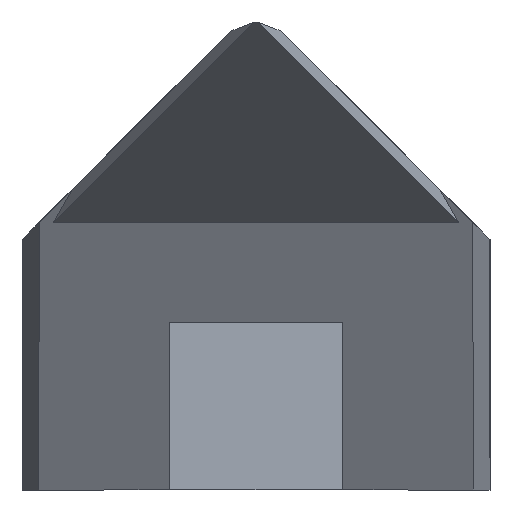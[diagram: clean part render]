
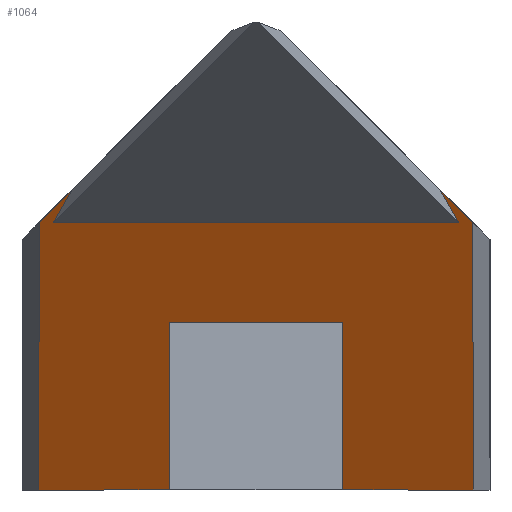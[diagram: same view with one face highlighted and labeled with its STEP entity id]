
A CAD part, front view. The second image highlights one B-rep face of the part: STEP entity #1064.
In plain terms, the highlighted planar face has unit normal (0, -0.848, -0.53).
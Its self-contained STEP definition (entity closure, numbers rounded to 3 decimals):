
#19 = PLANE ( 'NONE',  #473 ) ;
#27 = DIRECTION ( 'NONE',  ( 0.647, 0.404, -0.646 ) ) ;
#37 = CARTESIAN_POINT ( 'NONE',  ( 7., -12., 0. ) ) ;
#46 = VECTOR ( 'NONE', #207, 1000. ) ;
#69 = LINE ( 'NONE', #900, #46 ) ;
#81 = CARTESIAN_POINT ( 'NONE',  ( -6.485, -17., 8. ) ) ;
#115 = EDGE_CURVE ( 'NONE', #389, #238, #454, .T. ) ;
#127 = EDGE_CURVE ( 'NONE', #884, #886, #1416, .T. ) ;
#143 = VERTEX_POINT ( 'NONE', #81 ) ;
#161 = EDGE_CURVE ( 'NONE', #742, #1061, #747, .T. ) ;
#165 = VECTOR ( 'NONE', #1431, 1000. ) ;
#169 = VECTOR ( 'NONE', #793, 1000. ) ;
#182 = VERTEX_POINT ( 'NONE', #380 ) ;
#203 = VECTOR ( 'NONE', #27, 1000. ) ;
#207 = DIRECTION ( 'NONE',  ( 1., 0., 0. ) ) ;
#214 = EDGE_CURVE ( 'NONE', #516, #182, #362, .T. ) ;
#218 = LINE ( 'NONE', #702, #426 ) ;
#233 = CARTESIAN_POINT ( 'NONE',  ( 7., -17., 8. ) ) ;
#238 = VERTEX_POINT ( 'NONE', #1484 ) ;
#244 = CARTESIAN_POINT ( 'NONE',  ( 5.511, -17.607, 8.971 ) ) ;
#245 = ORIENTED_EDGE ( 'NONE', *, *, #1261, .T. ) ;
#257 = CARTESIAN_POINT ( 'NONE',  ( 9.936, -12.751, 1.202 ) ) ;
#266 = ORIENTED_EDGE ( 'NONE', *, *, #127, .T. ) ;
#289 = LINE ( 'NONE', #430, #1320 ) ;
#309 = CARTESIAN_POINT ( 'NONE',  ( -3.126, -19.095, 11.352 ) ) ;
#321 = ORIENTED_EDGE ( 'NONE', *, *, #115, .T. ) ;
#342 = CARTESIAN_POINT ( 'NONE',  ( -2.6, -12., 0. ) ) ;
#360 = EDGE_CURVE ( 'NONE', #143, #1418, #289, .T. ) ;
#362 = LINE ( 'NONE', #257, #1224 ) ;
#380 = CARTESIAN_POINT ( 'NONE',  ( 6.065, -17., 8. ) ) ;
#388 = EDGE_CURVE ( 'NONE', #886, #389, #69, .T. ) ;
#389 = VERTEX_POINT ( 'NONE', #572 ) ;
#390 = DIRECTION ( 'NONE',  ( 0., 0.848, 0.53 ) ) ;
#395 = EDGE_CURVE ( 'NONE', #884, #1418, #410, .T. ) ;
#410 = LINE ( 'NONE', #795, #1501 ) ;
#426 = VECTOR ( 'NONE', #939, 1000. ) ;
#430 = CARTESIAN_POINT ( 'NONE',  ( -6.5, -12., -0.001 ) ) ;
#449 = CARTESIAN_POINT ( 'NONE',  ( -2.6, -12., 0. ) ) ;
#451 = VECTOR ( 'NONE', #589, 1000. ) ;
#454 = LINE ( 'NONE', #937, #1071 ) ;
#473 = AXIS2_PLACEMENT_3D ( 'NONE', #37, #390, #517 ) ;
#483 = CARTESIAN_POINT ( 'NONE',  ( -6.5, -12., 0. ) ) ;
#507 = EDGE_CURVE ( 'NONE', #764, #722, #727, .T. ) ;
#516 = VERTEX_POINT ( 'NONE', #244 ) ;
#517 = DIRECTION ( 'NONE',  ( 0., -0.53, 0.848 ) ) ;
#546 = CARTESIAN_POINT ( 'NONE',  ( -6.065, -17., 8. ) ) ;
#556 = LINE ( 'NONE', #309, #169 ) ;
#566 = DIRECTION ( 'NONE',  ( -0.002, 0.53, -0.848 ) ) ;
#572 = CARTESIAN_POINT ( 'NONE',  ( 2.6, -15.125, 5. ) ) ;
#581 = DIRECTION ( 'NONE',  ( 0., 0.53, -0.848 ) ) ;
#589 = DIRECTION ( 'NONE',  ( -1., 0., 0. ) ) ;
#600 = VECTOR ( 'NONE', #1294, 1000. ) ;
#618 = CARTESIAN_POINT ( 'NONE',  ( 6.485, -16.687, 7.499 ) ) ;
#648 = CARTESIAN_POINT ( 'NONE',  ( 6.5, -12., 0. ) ) ;
#690 = LINE ( 'NONE', #233, #451 ) ;
#702 = CARTESIAN_POINT ( 'NONE',  ( 7., -12., 0. ) ) ;
#722 = VERTEX_POINT ( 'NONE', #1360 ) ;
#727 = LINE ( 'NONE', #1289, #600 ) ;
#740 = CARTESIAN_POINT ( 'NONE',  ( 4.801, -18.05, 9.68 ) ) ;
#742 = VERTEX_POINT ( 'NONE', #648 ) ;
#747 = LINE ( 'NONE', #618, #165 ) ;
#764 = VERTEX_POINT ( 'NONE', #546 ) ;
#786 = ORIENTED_EDGE ( 'NONE', *, *, #395, .F. ) ;
#789 = ORIENTED_EDGE ( 'NONE', *, *, #792, .F. ) ;
#792 = EDGE_CURVE ( 'NONE', #143, #722, #556, .T. ) ;
#793 = DIRECTION ( 'NONE',  ( 0.647, -0.404, 0.646 ) ) ;
#795 = CARTESIAN_POINT ( 'NONE',  ( 7., -12., 0. ) ) ;
#803 = ORIENTED_EDGE ( 'NONE', *, *, #1451, .F. ) ;
#804 = DIRECTION ( 'NONE',  ( -1., 0., 0. ) ) ;
#818 = CARTESIAN_POINT ( 'NONE',  ( -2.6, -15.125, 5. ) ) ;
#826 = DIRECTION ( 'NONE',  ( 0., -0.53, 0.848 ) ) ;
#836 = EDGE_CURVE ( 'NONE', #742, #238, #218, .T. ) ;
#884 = VERTEX_POINT ( 'NONE', #449 ) ;
#886 = VERTEX_POINT ( 'NONE', #818 ) ;
#900 = CARTESIAN_POINT ( 'NONE',  ( 7., -15.125, 5. ) ) ;
#917 = ORIENTED_EDGE ( 'NONE', *, *, #360, .T. ) ;
#937 = CARTESIAN_POINT ( 'NONE',  ( 2.6, -12., 0. ) ) ;
#939 = DIRECTION ( 'NONE',  ( -1., 0., 0. ) ) ;
#992 = ORIENTED_EDGE ( 'NONE', *, *, #214, .T. ) ;
#1061 = VERTEX_POINT ( 'NONE', #1441 ) ;
#1064 = ADVANCED_FACE ( 'NONE', ( #1322 ), #19, .F. ) ;
#1071 = VECTOR ( 'NONE', #581, 1000. ) ;
#1072 = DIRECTION ( 'NONE',  ( 0.435, 0.477, -0.764 ) ) ;
#1081 = EDGE_LOOP ( 'NONE', ( #245, #1137, #789, #917, #786, #266, #1308, #321, #1448, #1233, #803, #992 ) ) ;
#1107 = LINE ( 'NONE', #740, #203 ) ;
#1137 = ORIENTED_EDGE ( 'NONE', *, *, #507, .T. ) ;
#1224 = VECTOR ( 'NONE', #1072, 1000. ) ;
#1233 = ORIENTED_EDGE ( 'NONE', *, *, #161, .T. ) ;
#1261 = EDGE_CURVE ( 'NONE', #182, #764, #690, .T. ) ;
#1276 = VECTOR ( 'NONE', #826, 1000. ) ;
#1289 = CARTESIAN_POINT ( 'NONE',  ( -7.288, -15.657, 5.851 ) ) ;
#1294 = DIRECTION ( 'NONE',  ( 0.435, -0.477, 0.764 ) ) ;
#1308 = ORIENTED_EDGE ( 'NONE', *, *, #388, .T. ) ;
#1320 = VECTOR ( 'NONE', #566, 1000. ) ;
#1322 = FACE_OUTER_BOUND ( 'NONE', #1081, .T. ) ;
#1360 = CARTESIAN_POINT ( 'NONE',  ( -5.511, -17.607, 8.971 ) ) ;
#1416 = LINE ( 'NONE', #342, #1276 ) ;
#1418 = VERTEX_POINT ( 'NONE', #483 ) ;
#1431 = DIRECTION ( 'NONE',  ( -0.002, -0.53, 0.848 ) ) ;
#1441 = CARTESIAN_POINT ( 'NONE',  ( 6.485, -17., 8. ) ) ;
#1448 = ORIENTED_EDGE ( 'NONE', *, *, #836, .F. ) ;
#1451 = EDGE_CURVE ( 'NONE', #516, #1061, #1107, .T. ) ;
#1484 = CARTESIAN_POINT ( 'NONE',  ( 2.6, -12., 0. ) ) ;
#1501 = VECTOR ( 'NONE', #804, 1000. ) ;
